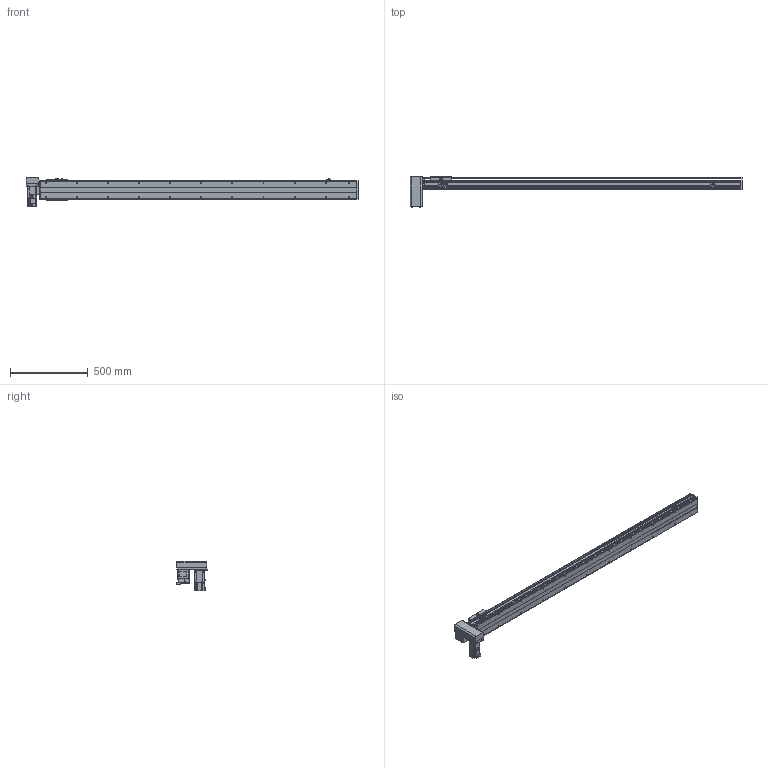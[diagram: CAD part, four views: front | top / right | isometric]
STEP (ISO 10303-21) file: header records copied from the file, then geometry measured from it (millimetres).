
FILE_DESCRIPTION( ( 'STEP AP214' ), '1' );
FILE_NAME( 'x:/temp/worker_27/temp/exporttempdir_6708_197_O2R6w/format_0/PBS120-P40-S1750-RD-T40-C1-N(0).stp', '2022-06-06T00:43:11', ( 'License CC BY-ND 4.0' ), ( 'CADENAS' ), ' ', 'PARTsolutions', ' ' );
FILE_SCHEMA( ( 'AUTOMOTIVE_DESIGN { 1 0 10303 214 1 1 1 1 }' ) );
Length unit declared in the file: millimetre
Products named in the file (7): PBS120-P40-S1750-RD-T40-C1-N(0); _PBS120-S1750()_body; _PBS120T-RD_motors; _T40-p1; _PBS120_sliser; _PBS120_plant; _PBS120_sensor
Assembly tree (8 placements, depth 2):
  PBS120-P40-S1750-RD-T40-C1-N(0)
    _PBS120-S1750()_body
    _PBS120T-RD_motors
    _T40-p1
    _PBS120_sliser
    _PBS120_plant
    _PBS120_sensor  x3
Bounding box: 2136 x 196 x 189.7 mm (x, y, z)
Volume: 8402509.8 mm3; surface area: 1702360.5 mm2
Topology: 8 solids, 8 shells, 846 faces, 2186 edges, 1405 vertices
Faces by surface type: plane 555, cylinder 235, cone 54, torus 2
Full cylindrical faces by diameter (mm): 2.459 x6, 3.242 x4, 4 x2, 4.134 x4, 4.5 x10, 4.917 x26, 5.5 x11, 6 x2, 6.6 x1, 7 x2, 8.5 x4, 9 x4, 12 x1, 14 x1, 30 x2, 40 x1, 50 x2
Entity records: 27828 total; most frequent: DIRECTION 3812, CARTESIAN_POINT 3731, ORIENTED_EDGE 3538, EDGE_CURVE 1769, AXIS2_PLACEMENT_3D 1292, LINE 1228, VECTOR 1228, VERTEX_POINT 1211
